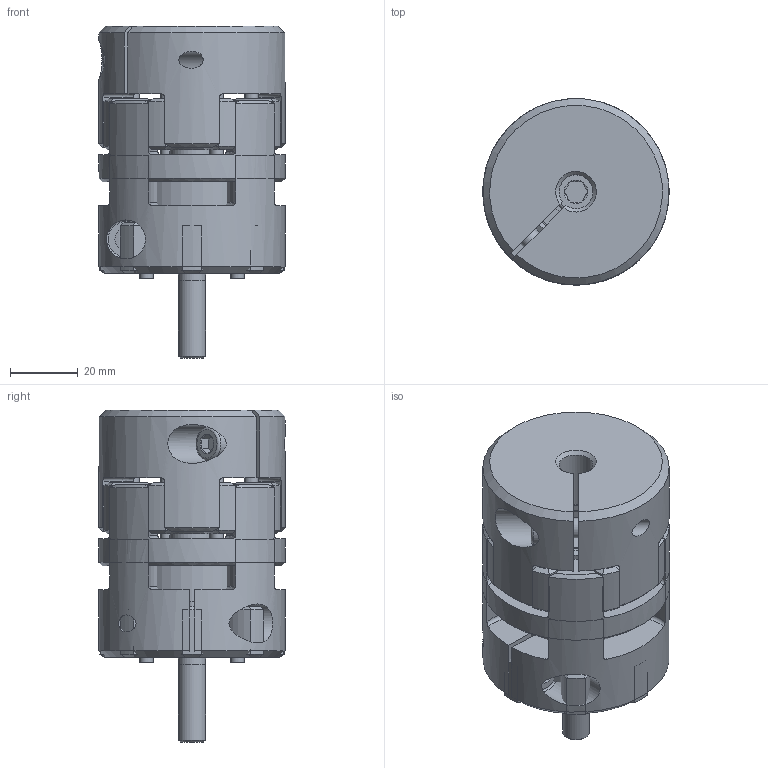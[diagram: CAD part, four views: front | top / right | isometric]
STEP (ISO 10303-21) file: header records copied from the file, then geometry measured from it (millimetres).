
FILE_DESCRIPTION( ( 'Unknown' ), '1' );
FILE_NAME( 'K:/Konstruktion/KBE Fertigungszeichnungen/KBE4/HP/KBE4-24.stp', 'Unknown', ( 'Unknown' ), ( 'Unknown' ), 'XStep 1.0', 'Unknown', ' ' );
FILE_SCHEMA( ( 'automotive_design' ) );
Length unit declared in the file: millimetre
Products named in the file (6): Assem1; KBE 4 - 24_Nabe-D; Zahnkranz_24_D26; KBE 2C - 24_Nabe_0; ISO EN DIN 4762 M8x25; ISO EN DIN 4762 M6x18
Bounding box: 55 x 55 x 98 mm (x, y, z)
Volume: 230485.4 mm3; surface area: 68689.1 mm2
Topology: 10 solids, 10 shells, 586 faces, 1340 edges, 814 vertices
Faces by surface type: cone 234, cylinder 168, plane 138, torus 46
Full cylindrical faces by diameter (mm): 4 x16, 5 x4, 6 x4, 6.5 x2, 7 x2, 8 x4, 10 x4, 11.5 x2, 13 x2, 15.5 x2, 26 x2, 27 x4, 36 x2, 55 x2
Entity records: 9079 total; most frequent: CARTESIAN_POINT 2228, DIRECTION 1370, ORIENTED_EDGE 1234, AXIS2_PLACEMENT_3D 636, EDGE_CURVE 617, VERTEX_POINT 392, EDGE_LOOP 359, CIRCLE 337
